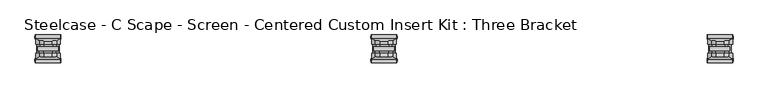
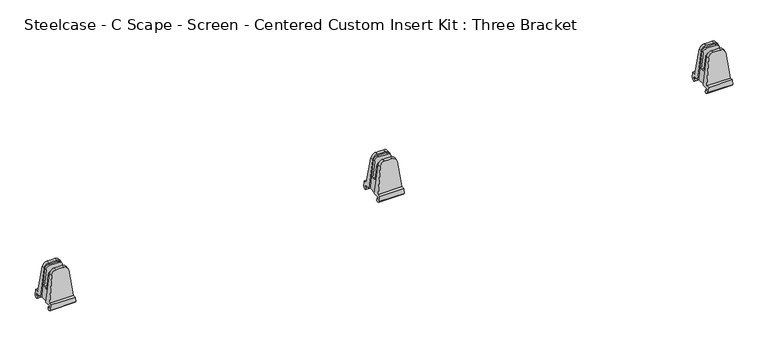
"""IFC4 building model written with IfcOpenShell, lengths in millimetres: furniture geometry, Steelcase - C Scape - Screen - Centered Custom Insert Kit : Three Bracket."""

from ifc_helpers import new_model, si_unit, frame, origin, place, context, project, spatial, circle_curve, ellipse_curve, source, transform, mapped, element, save
from ifc_brep_helpers import plane_surface, cylinder_surface, advanced_brep


def steelcase_c_scape_screen_centered_custom_insert_kit_three_330a97be(model_context):
    return source(origin(), model_context, "Body", "AdvancedBrep", [
        advanced_brep(
        [(752.7411595, -3.1752569, 793.5976353), (760.3449451, -3.1752569, 793.5976353), (767.99117, -3.1752569, 793.5976353), (767.99117, 3.17474, 793.5976353), (760.3449451, 3.17474, 793.5976353), (752.7411595, 3.17474, 793.5976353), (742.4299677, -3.1752569, 784.4759275), (734.9863978, -3.1752569, 723.9), (737.0703023, -3.1752569, 723.9), (743.3288736, -3.1752569, 783.4463283), (751.3307285, -3.1752569, 790.6512308), (770.9286053, -3.1752569, 790.6512308), (777.2441278, -3.1752569, 784.9620449), (783.6332521, -3.1752569, 723.9), (785.7459317, -3.1752569, 723.9), (778.3023617, -3.1752569, 784.4759275), (734.9863978, 10.1600734, 723.9), (785.7459317, 10.1600734, 723.9), (783.6332521, -22.2252569, 723.9), (785.7459317, -22.2250614, 723.9), (785.7459317, -35.5603917, 723.9), (734.9863978, -35.5603917, 723.9), (734.9863978, -22.2250614, 723.9), (737.0703023, -22.2250614, 723.9), (734.5177499, 10.1600734, 720.086134), (786.2145796, 10.1600734, 720.086134), (734.5177499, 6.7312129, 720.086134), (786.2145796, 6.7312129, 720.086134), (733.9871568, 6.7312129, 715.7681562), (786.7451727, 6.7312129, 715.7681562), (733.7765087, 9.1438564, 714.375), (786.9133815, 9.1438564, 714.375), (733.8159658, 11.8111354, 714.375), (786.9133815, 11.8111354, 714.375), (734.2841404, 15.6202052, 718.1850145), (786.4481891, 15.6202052, 718.1850145), (735.6324785, 15.6202052, 729.1578186), (785.099851, 15.6202052, 729.1578186), (735.6324785, 8.8135415, 729.1578186), (785.099851, 8.8135415, 729.1578186), (742.4299677, 3.9729344, 784.4759275), (778.3023617, 3.9729344, 784.4759275), (735.6324785, -34.2138598, 729.1578186), (785.099851, -34.2138598, 729.1578186), (778.3023617, -29.3732527, 784.4759275), (767.99117, -28.5750583, 793.5976353), (760.3449451, -28.5750583, 793.5976353), (752.7411595, -28.5750583, 793.5976353), (742.4299677, -29.3732527, 784.4759275), (735.6324785, -41.0205235, 729.1578186), (785.099851, -41.0205235, 729.1578186), (734.2841404, -41.0205235, 718.1850145), (786.4481891, -41.0205235, 718.1850145), (733.7765087, -37.2114537, 714.375), (786.9133815, -37.2114537, 714.375), (733.8159658, -34.5441746, 714.375), (786.9133815, -34.5441746, 714.375), (733.9871568, -32.1315312, 715.7681562), (786.7451727, -32.1315312, 715.7681562), (734.5177499, -32.1315312, 720.086134), (786.2145796, -32.1315312, 720.086134), (734.5177499, -35.5603917, 720.086134), (786.2145796, -35.5603917, 720.086134), (752.7411595, -22.2250614, 793.5976353), (760.3449451, -22.2250614, 793.5976353), (767.99117, -22.2250614, 793.5976353), (778.3023617, -22.2250614, 784.4759275), (777.7862917, -22.2250614, 779.780484), (770.0046145, -22.2250614, 786.79042), (750.4780312, -22.2250614, 786.79042), (742.9698008, -22.2250614, 780.0299789), (742.4299677, -22.2250614, 784.4759275), (750.4780312, -17.4500569, 786.79042), (770.0046145, -17.4500569, 786.79042), (777.7862917, -17.4500569, 779.780484), (781.0712458, -17.4500569, 748.3855694), (739.6438394, -17.4500569, 748.3855694), (742.9698008, -17.4500569, 780.0299789), (739.6438394, -7.9504569, 748.3855694), (743.3288736, -7.9504569, 783.4463283), (777.2441278, -7.9504569, 784.9620449), (781.0712458, -7.9504569, 748.3855694), (751.3307285, -7.9504569, 790.6512308), (770.9286053, -7.9504569, 790.6512308)],
        [
            (0, 1),
            (1, 2),
            (2, 3),
            (3, 4),
            (4, 5),
            (5, 0),
            (0, 6, circle_curve(frame((752.7411595, -3.1752569, 783.2088883), z_axis=(0.0, -1.0, 0.0), x_axis=(-1.0, 0.0, 0.0)), 10.388747)),
            (6, 7),
            (7, 8),
            (8, 9),
            (9, 10, circle_curve(frame((751.3307285, -3.1752569, 782.6052995), z_axis=(0.0, 1.0, 0.0), x_axis=(1.0, 0.0, 0.0)), 8.0459313)),
            (10, 11),
            (11, 12, circle_curve(frame((770.9286053, -3.1752569, 784.3012308), z_axis=(0.0, 1.0, 0.0), x_axis=(1.0, 0.0, 0.0)), 6.35)),
            (12, 13),
            (13, 14),
            (14, 15),
            (15, 2, circle_curve(frame((767.99117, -3.1752569, 783.2088883), z_axis=(0.0, -1.0, 0.0), x_axis=(1.0, 0.0, 0.0)), 10.388747)),
            (16, 17),
            (17, 14),
            (13, 18),
            (18, 19),
            (19, 20),
            (20, 21),
            (21, 22),
            (22, 23),
            (23, 8),
            (7, 16),
            (16, 24),
            (24, 25),
            (25, 17),
            (24, 26),
            (26, 27),
            (27, 25),
            (26, 28),
            (28, 29),
            (29, 27),
            (30, 31),
            (31, 29),
            (28, 30),
            (30, 32),
            (32, 33),
            (33, 31),
            (32, 34),
            (34, 35),
            (35, 33),
            (34, 36),
            (36, 37),
            (37, 35),
            (36, 38),
            (38, 39),
            (39, 37),
            (38, 40),
            (40, 5, ellipse_curve(frame((752.7411595, 4.0838066, 783.2088883), z_axis=(0.0, 0.9961932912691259, 0.08717182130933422), x_axis=(0.0, 0.08717182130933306, -0.9961932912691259)), 10.428445, 10.388747)),
            (3, 41, ellipse_curve(frame((767.99117, 4.0838066, 783.2088883), z_axis=(0.0, 0.9961932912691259, 0.08717182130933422), x_axis=(0.0, 0.08717182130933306, -0.9961932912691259)), 10.428445, 10.388747)),
            (41, 39),
            (42, 43),
            (43, 44),
            (44, 45, ellipse_curve(frame((767.99117, -29.4841248, 783.2088883), z_axis=(0.0, -0.9961932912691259, 0.08717182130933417), x_axis=(0.0, 0.08717182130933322, 0.996193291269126)), 10.428445, 10.388747)),
            (45, 46),
            (46, 47),
            (47, 48, ellipse_curve(frame((752.7411595, -29.4841248, 783.2088883), z_axis=(0.0, -0.9961932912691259, 0.08717182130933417), x_axis=(0.0, 0.08717182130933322, 0.996193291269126)), 10.428445, 10.388747)),
            (48, 42),
            (42, 49),
            (49, 50),
            (50, 43),
            (49, 51),
            (51, 52),
            (52, 50),
            (53, 54),
            (54, 52),
            (51, 53),
            (53, 55),
            (55, 56),
            (56, 54),
            (55, 57),
            (57, 58),
            (58, 56),
            (57, 59),
            (59, 60),
            (60, 58),
            (59, 61),
            (61, 62),
            (62, 60),
            (61, 21),
            (20, 62),
            (63, 64),
            (64, 65),
            (65, 66, circle_curve(frame((767.99117, -22.2250614, 783.2088883), z_axis=(0.0, 1.0, 0.0), x_axis=(1.0, 0.0, 0.0)), 10.388747)),
            (66, 19),
            (18, 67),
            (67, 68, circle_curve(frame((770.0046145, -22.2250614, 778.9662613), z_axis=(0.0, -1.0, 0.0), x_axis=(1.0, 0.0, 0.0)), 7.8241587)),
            (68, 69),
            (69, 70, circle_curve(frame((750.4780312, -22.2250614, 779.2408321), z_axis=(0.0, -1.0, 0.0), x_axis=(1.0, 0.0, 0.0)), 7.5495878)),
            (70, 23),
            (22, 71),
            (71, 63, circle_curve(frame((752.7411595, -22.2250614, 783.2088883), z_axis=(0.0, 1.0, 0.0), x_axis=(-1.0, 0.0, 0.0)), 10.388747)),
            (45, 65),
            (63, 47),
            (6, 40),
            (48, 71),
            (15, 41),
            (44, 66),
            (72, 73),
            (73, 74, circle_curve(frame((770.0046145, -17.4500569, 778.9662613), z_axis=(0.0, 1.0, 0.0), x_axis=(1.0, 0.0, 0.0)), 7.8241587)),
            (74, 75),
            (75, 76),
            (76, 77),
            (77, 72, circle_curve(frame((750.4780312, -17.4500569, 779.2408321), z_axis=(0.0, 1.0, 0.0), x_axis=(1.0, 0.0, 0.0)), 7.5495878)),
            (77, 70),
            (69, 72),
            (76, 78),
            (78, 79),
            (79, 9),
            (12, 80),
            (80, 81),
            (81, 75),
            (74, 67),
            (73, 68),
            (82, 79, circle_curve(frame((751.3307285, -7.9504569, 782.6052995), z_axis=(0.0, -1.0, 0.0), x_axis=(1.0, 0.0, 0.0)), 8.0459313)),
            (78, 81),
            (80, 83, circle_curve(frame((770.9286053, -7.9504569, 784.3012308), z_axis=(0.0, -1.0, 0.0), x_axis=(1.0, 0.0, 0.0)), 6.35)),
            (83, 82),
            (82, 10),
            (11, 83),
        ],
        [
            plane_surface(frame((786.9133815, 3.17474, 793.5976353), z_axis=(0.0, 0.0, 1.0), x_axis=(-1.0, 0.0, 0.0))),
            plane_surface(frame((786.9133815, -3.1752569, 793.5976353), z_axis=(0.0, -1.0, 0.0), x_axis=(-1.0, 0.0, 0.0))),
            plane_surface(frame((786.9133815, -3.1752569, 723.9), z_axis=(0.0, 0.0, -1.0), x_axis=(-1.0, 0.0, 0.0))),
            plane_surface(frame((786.9133815, 10.1600734, 723.9), z_axis=(0.0, -1.0, 0.0), x_axis=(-1.0, 0.0, 0.0))),
            plane_surface(frame((786.9133815, 10.1600734, 720.086134), z_axis=(0.0, 0.0, 1.0), x_axis=(-1.0, 0.0, 0.0))),
            plane_surface(frame((786.9133815, 6.7312129, 720.086134), z_axis=(0.0, -1.0, 0.0), x_axis=(-1.0, 0.0, 0.0))),
            plane_surface(frame((786.9133815, 6.7312129, 715.7681562), z_axis=(0.0, -0.5000581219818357, -0.8659918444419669), x_axis=(-1.0, 0.0, 0.0))),
            plane_surface(frame((786.9133815, 9.1438564, 714.375), z_axis=(0.0, 0.0, -1.0), x_axis=(-1.0, 0.0, 0.0))),
            plane_surface(frame((786.9133815, 11.8111354, 714.375), z_axis=(0.0, 0.7071944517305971, -0.7070190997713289), x_axis=(-1.0, 0.0, 0.0))),
            plane_surface(frame((786.9133815, 15.6202052, 718.1850145), z_axis=(0.0, 1.0, 0.0), x_axis=(-1.0, 0.0, 0.0))),
            plane_surface(frame((786.9133815, 15.6202052, 729.1578186), z_axis=(0.0, 0.0, 1.0), x_axis=(-1.0, 0.0, 0.0))),
            plane_surface(frame((786.9133815, 8.8135415, 729.1578186), z_axis=(0.0, 0.9961932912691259, 0.08717182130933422), x_axis=(-1.0, 0.0, 0.0))),
            plane_surface(frame((786.9133815, -28.5750583, 793.5976353), z_axis=(0.0, -0.9961932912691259, 0.08717182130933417), x_axis=(-1.0, 0.0, 0.0))),
            plane_surface(frame((786.9133815, -34.2138598, 729.1578186), z_axis=(0.0, 0.0, 1.0), x_axis=(-1.0, 0.0, 0.0))),
            plane_surface(frame((786.9133815, -41.0205235, 729.1578186), z_axis=(0.0, -1.0, 0.0), x_axis=(-1.0, 0.0, 0.0))),
            plane_surface(frame((786.9133815, -41.0205235, 718.1850145), z_axis=(0.0, -0.7071944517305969, -0.707019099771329), x_axis=(-1.0, 0.0, 0.0))),
            plane_surface(frame((786.9133815, -37.2114537, 714.375), z_axis=(0.0, 0.0, -1.0), x_axis=(-1.0, 0.0, 0.0))),
            plane_surface(frame((786.9133815, -34.5441746, 714.375), z_axis=(0.0, 0.5000581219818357, -0.8659918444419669), x_axis=(-1.0, 0.0, 0.0))),
            plane_surface(frame((786.9133815, -32.1315312, 715.7681562), z_axis=(0.0, 1.0, 0.0), x_axis=(-1.0, 0.0, 0.0))),
            plane_surface(frame((786.9133815, -32.1315312, 720.086134), z_axis=(0.0, 0.0, 1.0), x_axis=(-1.0, 0.0, 0.0))),
            plane_surface(frame((786.9133815, -35.5603917, 720.086134), z_axis=(0.0, 1.0, 0.0), x_axis=(-1.0, 0.0, 0.0))),
            plane_surface(frame((786.9133815, -22.2250614, 723.9), z_axis=(0.0, 1.0, 0.0), x_axis=(-1.0, 0.0, 0.0))),
            plane_surface(frame((786.9133815, -22.2250614, 793.5976353), z_axis=(0.0, 0.0, 1.0), x_axis=(-1.0, 0.0, 0.0))),
            plane_surface(frame((733.8159658, -43.2064559, 714.375), z_axis=(-0.9925346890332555, 0.0, 0.12196266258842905), x_axis=(0.0, 1.0, 0.0))),
            cylinder_surface(frame((752.7411595, 17.5208706, 783.2088883), z_axis=(0.0, 1.0, 0.0), x_axis=(-1.0, 0.0, 0.0)), 10.388747),
            cylinder_surface(frame((767.99117, 17.5208706, 783.2088883), z_axis=(0.0, 1.0, 0.0), x_axis=(1.0, 0.0, 0.0)), 10.388747),
            plane_surface(frame((778.3023617, -43.2064559, 784.4759275), z_axis=(0.9925346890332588, 0.0, 0.12196266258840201), x_axis=(0.0, 1.0, 0.0))),
            plane_surface(frame((758.0276191, -17.4500569, 779.2408321), z_axis=(0.0, 1.0, 0.0), x_axis=(0.0, 0.0, -1.0))),
            cylinder_surface(frame((750.4780312, -17.4500569, 779.2408321), z_axis=(0.0, -1.0, 0.0), x_axis=(1.0, 0.0, 0.0)), 7.5495878),
            plane_surface(frame((742.9698008, -22.2252569, 780.0299789), z_axis=(-0.9945218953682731, 0.0, 0.10452846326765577), x_axis=(0.0, 1.0, 0.0))),
            plane_surface(frame((783.6332521, -22.2252569, 723.9), z_axis=(0.9945704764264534, 0.0, 0.10406520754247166), x_axis=(0.0, 1.0, 0.0))),
            cylinder_surface(frame((770.0046145, -17.4500569, 778.9662613), z_axis=(0.0, -1.0, 0.0), x_axis=(1.0, 0.0, 0.0)), 7.8241587),
            plane_surface(frame((770.0046145, -22.2252569, 786.79042), z_axis=(0.0, 0.0, 1.0), x_axis=(0.0, 1.0, 0.0))),
            plane_surface(frame((759.3766598, -7.9504569, 782.6052995), z_axis=(0.0, -1.0, 0.0), x_axis=(0.0, 0.0, 1.0))),
            cylinder_surface(frame((751.3307285, -3.1752569, 782.6052995), z_axis=(0.0, -1.0, 0.0), x_axis=(1.0, 0.0, 0.0)), 8.0459313),
            cylinder_surface(frame((770.9286053, -3.1752569, 784.3012308), z_axis=(0.0, -1.0, 0.0), x_axis=(1.0, 0.0, 0.0)), 6.35),
            plane_surface(frame((770.9286053, -7.9504569, 790.6512308), z_axis=(0.0, 0.0, 1.0), x_axis=(0.0, 1.0, 0.0))),
            plane_surface(frame((781.0712458, -17.4500569, 748.3855694), z_axis=(0.0, 0.0, 1.0), x_axis=(0.0, 1.0, 0.0))),
        ],
        [
            (0, [[1, 2, 3, 4, 5, 6]]),
            (1, [[-1, 7, 8, 9, 10, 11, 12, 13, 14, 15, 16, 17, -2]]),
            (2, [[18, 19, -15, 20, 21, 22, 23, 24, 25, 26, -9, 27]]),
            (3, [[-18, 28, 29, 30]]),
            (4, [[-29, 31, 32, 33]]),
            (5, [[-32, 34, 35, 36]]),
            (6, [[37, 38, -35, 39]]),
            (7, [[-37, 40, 41, 42]]),
            (8, [[-41, 43, 44, 45]]),
            (9, [[-44, 46, 47, 48]]),
            (10, [[-47, 49, 50, 51]]),
            (11, [[-50, 52, 53, -5, -4, 54, 55]]),
            (12, [[56, 57, 58, 59, 60, 61, 62]]),
            (13, [[-56, 63, 64, 65]]),
            (14, [[-64, 66, 67, 68]]),
            (15, [[69, 70, -67, 71]]),
            (16, [[-69, 72, 73, 74]]),
            (17, [[-73, 75, 76, 77]]),
            (18, [[-76, 78, 79, 80]]),
            (19, [[-79, 81, 82, 83]]),
            (20, [[-82, 84, -23, 85]]),
            (21, [[86, 87, 88, 89, -21, 90, 91, 92, 93, 94, -25, 95, 96]]),
            (22, [[-59, 97, -87, -86, 98, -60]]),
            (23, [[99, -52, -49, -46, -43, -40, -39, -34, -31, -28, -27, -8]]),
            (23, [[100, -95, -24, -84, -81, -78, -75, -72, -71, -66, -63, -62]]),
            (24, [[-99, -7, -6, -53]]),
            (24, [[-100, -61, -98, -96]]),
            (25, [[101, -54, -3, -17]]),
            (25, [[102, -88, -97, -58]]),
            (26, [[-101, -16, -19, -30, -33, -36, -38, -42, -45, -48, -51, -55]]),
            (26, [[-102, -57, -65, -68, -70, -74, -77, -80, -83, -85, -22, -89]]),
            (27, [[103, 104, 105, 106, 107, 108]]),
            (28, [[-108, 109, -93, 110]]),
            (29, [[-109, -107, 111, 112, 113, -10, -26, -94]]),
            (30, [[-20, -14, 114, 115, 116, -105, 117, -90]]),
            (31, [[-104, 118, -91, -117]]),
            (32, [[-103, -110, -92, -118]]),
            (33, [[119, -112, 120, -115, 121, 122]]),
            (34, [[-119, 123, -11, -113]]),
            (35, [[-121, -114, -13, 124]]),
            (36, [[-122, -124, -12, -123]]),
            (37, [[-111, -106, -116, -120]]),
        ],
    ),
        advanced_brep(
        [(1438.4649563, -3.1752569, 793.5976353), (1446.0687419, -3.1752569, 793.5976353), (1453.7149668, -3.1752569, 793.5976353), (1453.7149668, 3.17474, 793.5976353), (1446.0687419, 3.17474, 793.5976353), (1438.4649563, 3.17474, 793.5976353), (1428.1537645, -3.1752569, 784.4759275), (1420.7101946, -3.1752569, 723.9), (1422.7940991, -3.1752569, 723.9), (1429.0526704, -3.1752569, 783.4463283), (1437.0545253, -3.1752569, 790.6512308), (1456.6524021, -3.1752569, 790.6512308), (1462.9679246, -3.1752569, 784.9620449), (1469.3570489, -3.1752569, 723.9), (1471.4697285, -3.1752569, 723.9), (1464.0261585, -3.1752569, 784.4759275), (1420.7101946, 10.1600734, 723.9), (1471.4697285, 10.1600734, 723.9), (1469.3570489, -22.2252569, 723.9), (1471.4697285, -22.2250614, 723.9), (1471.4697285, -35.5603917, 723.9), (1420.7101946, -35.5603917, 723.9), (1420.7101946, -22.2250614, 723.9), (1422.7940991, -22.2250614, 723.9), (1420.2415467, 10.1600734, 720.086134), (1471.9383764, 10.1600734, 720.086134), (1420.2415467, 6.7312129, 720.086134), (1471.9383764, 6.7312129, 720.086134), (1419.7109536, 6.7312129, 715.7681562), (1472.4689695, 6.7312129, 715.7681562), (1419.5003055, 9.1438564, 714.375), (1472.6371783, 9.1438564, 714.375), (1419.5397626, 11.8111354, 714.375), (1472.6371783, 11.8111354, 714.375), (1420.0079371, 15.6202052, 718.1850145), (1472.1719859, 15.6202052, 718.1850145), (1421.3562753, 15.6202052, 729.1578186), (1470.8236478, 15.6202052, 729.1578186), (1421.3562753, 8.8135415, 729.1578186), (1470.8236478, 8.8135415, 729.1578186), (1428.1537645, 3.9729344, 784.4759275), (1464.0261585, 3.9729344, 784.4759275), (1421.3562753, -34.2138598, 729.1578186), (1470.8236478, -34.2138598, 729.1578186), (1464.0261585, -29.3732527, 784.4759275), (1453.7149668, -28.5750583, 793.5976353), (1446.0687419, -28.5750583, 793.5976353), (1438.4649563, -28.5750583, 793.5976353), (1428.1537645, -29.3732527, 784.4759275), (1421.3562753, -41.0205235, 729.1578186), (1470.8236478, -41.0205235, 729.1578186), (1420.0079371, -41.0205235, 718.1850145), (1472.1719859, -41.0205235, 718.1850145), (1419.5003055, -37.2114537, 714.375), (1472.6371783, -37.2114537, 714.375), (1419.5397626, -34.5441746, 714.375), (1472.6371783, -34.5441746, 714.375), (1419.7109536, -32.1315312, 715.7681562), (1472.4689695, -32.1315312, 715.7681562), (1420.2415467, -32.1315312, 720.086134), (1471.9383764, -32.1315312, 720.086134), (1420.2415467, -35.5603917, 720.086134), (1471.9383764, -35.5603917, 720.086134), (1438.4649563, -22.2250614, 793.5976353), (1446.0687419, -22.2250614, 793.5976353), (1453.7149668, -22.2250614, 793.5976353), (1464.0261585, -22.2250614, 784.4759275), (1463.5100885, -22.2250614, 779.780484), (1455.7284113, -22.2250614, 786.79042), (1436.201828, -22.2250614, 786.79042), (1428.6935976, -22.2250614, 780.0299789), (1428.1537645, -22.2250614, 784.4759275), (1436.201828, -17.4500569, 786.79042), (1455.7284113, -17.4500569, 786.79042), (1463.5100885, -17.4500569, 779.780484), (1466.7950426, -17.4500569, 748.3855694), (1425.3676361, -17.4500569, 748.3855694), (1428.6935976, -17.4500569, 780.0299789), (1425.3676361, -7.9504569, 748.3855694), (1429.0526704, -7.9504569, 783.4463283), (1462.9679246, -7.9504569, 784.9620449), (1466.7950426, -7.9504569, 748.3855694), (1437.0545253, -7.9504569, 790.6512308), (1456.6524021, -7.9504569, 790.6512308)],
        [
            (0, 1),
            (1, 2),
            (2, 3),
            (3, 4),
            (4, 5),
            (5, 0),
            (0, 6, circle_curve(frame((1438.4649563, -3.1752569, 783.2088883), z_axis=(0.0, -1.0, 0.0), x_axis=(-1.0, 0.0, 0.0)), 10.388747)),
            (6, 7),
            (7, 8),
            (8, 9),
            (9, 10, circle_curve(frame((1437.0545253, -3.1752569, 782.6052995), z_axis=(0.0, 1.0, 0.0), x_axis=(1.0, 0.0, 0.0)), 8.0459313)),
            (10, 11),
            (11, 12, circle_curve(frame((1456.6524021, -3.1752569, 784.3012308), z_axis=(0.0, 1.0, 0.0), x_axis=(1.0, 0.0, 0.0)), 6.35)),
            (12, 13),
            (13, 14),
            (14, 15),
            (15, 2, circle_curve(frame((1453.7149668, -3.1752569, 783.2088883), z_axis=(0.0, -1.0, 0.0), x_axis=(1.0, 0.0, 0.0)), 10.388747)),
            (16, 17),
            (17, 14),
            (13, 18),
            (18, 19),
            (19, 20),
            (20, 21),
            (21, 22),
            (22, 23),
            (23, 8),
            (7, 16),
            (16, 24),
            (24, 25),
            (25, 17),
            (24, 26),
            (26, 27),
            (27, 25),
            (26, 28),
            (28, 29),
            (29, 27),
            (30, 31),
            (31, 29),
            (28, 30),
            (30, 32),
            (32, 33),
            (33, 31),
            (32, 34),
            (34, 35),
            (35, 33),
            (34, 36),
            (36, 37),
            (37, 35),
            (36, 38),
            (38, 39),
            (39, 37),
            (38, 40),
            (40, 5, ellipse_curve(frame((1438.4649563, 4.0838066, 783.2088883), z_axis=(0.0, 0.9961932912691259, 0.08717182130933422), x_axis=(0.0, 0.08717182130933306, -0.9961932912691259)), 10.428445, 10.388747)),
            (3, 41, ellipse_curve(frame((1453.7149668, 4.0838066, 783.2088883), z_axis=(0.0, 0.9961932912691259, 0.08717182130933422), x_axis=(0.0, 0.08717182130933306, -0.9961932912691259)), 10.428445, 10.388747)),
            (41, 39),
            (42, 43),
            (43, 44),
            (44, 45, ellipse_curve(frame((1453.7149668, -29.4841248, 783.2088883), z_axis=(0.0, -0.9961932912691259, 0.08717182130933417), x_axis=(0.0, 0.08717182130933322, 0.996193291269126)), 10.428445, 10.388747)),
            (45, 46),
            (46, 47),
            (47, 48, ellipse_curve(frame((1438.4649563, -29.4841248, 783.2088883), z_axis=(0.0, -0.9961932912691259, 0.08717182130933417), x_axis=(0.0, 0.08717182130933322, 0.996193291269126)), 10.428445, 10.388747)),
            (48, 42),
            (42, 49),
            (49, 50),
            (50, 43),
            (49, 51),
            (51, 52),
            (52, 50),
            (53, 54),
            (54, 52),
            (51, 53),
            (53, 55),
            (55, 56),
            (56, 54),
            (55, 57),
            (57, 58),
            (58, 56),
            (57, 59),
            (59, 60),
            (60, 58),
            (59, 61),
            (61, 62),
            (62, 60),
            (61, 21),
            (20, 62),
            (63, 64),
            (64, 65),
            (65, 66, circle_curve(frame((1453.7149668, -22.2250614, 783.2088883), z_axis=(0.0, 1.0, 0.0), x_axis=(1.0, 0.0, 0.0)), 10.388747)),
            (66, 19),
            (18, 67),
            (67, 68, circle_curve(frame((1455.7284113, -22.2250614, 778.9662613), z_axis=(0.0, -1.0, 0.0), x_axis=(1.0, 0.0, 0.0)), 7.8241587)),
            (68, 69),
            (69, 70, circle_curve(frame((1436.201828, -22.2250614, 779.2408321), z_axis=(0.0, -1.0, 0.0), x_axis=(1.0, 0.0, 0.0)), 7.5495878)),
            (70, 23),
            (22, 71),
            (71, 63, circle_curve(frame((1438.4649563, -22.2250614, 783.2088883), z_axis=(0.0, 1.0, 0.0), x_axis=(-1.0, 0.0, 0.0)), 10.388747)),
            (45, 65),
            (63, 47),
            (6, 40),
            (48, 71),
            (15, 41),
            (44, 66),
            (72, 73),
            (73, 74, circle_curve(frame((1455.7284113, -17.4500569, 778.9662613), z_axis=(0.0, 1.0, 0.0), x_axis=(1.0, 0.0, 0.0)), 7.8241587)),
            (74, 75),
            (75, 76),
            (76, 77),
            (77, 72, circle_curve(frame((1436.201828, -17.4500569, 779.2408321), z_axis=(0.0, 1.0, 0.0), x_axis=(1.0, 0.0, 0.0)), 7.5495878)),
            (77, 70),
            (69, 72),
            (76, 78),
            (78, 79),
            (79, 9),
            (12, 80),
            (80, 81),
            (81, 75),
            (74, 67),
            (73, 68),
            (82, 79, circle_curve(frame((1437.0545253, -7.9504569, 782.6052995), z_axis=(0.0, -1.0, 0.0), x_axis=(1.0, 0.0, 0.0)), 8.0459313)),
            (78, 81),
            (80, 83, circle_curve(frame((1456.6524021, -7.9504569, 784.3012308), z_axis=(0.0, -1.0, 0.0), x_axis=(1.0, 0.0, 0.0)), 6.35)),
            (83, 82),
            (82, 10),
            (11, 83),
        ],
        [
            plane_surface(frame((1472.6371783, 3.17474, 793.5976353), z_axis=(0.0, 0.0, 1.0), x_axis=(-1.0, 0.0, 0.0))),
            plane_surface(frame((1472.6371783, -3.1752569, 793.5976353), z_axis=(0.0, -1.0, 0.0), x_axis=(-1.0, 0.0, 0.0))),
            plane_surface(frame((1472.6371783, -3.1752569, 723.9), z_axis=(0.0, 0.0, -1.0), x_axis=(-1.0, 0.0, 0.0))),
            plane_surface(frame((1472.6371783, 10.1600734, 723.9), z_axis=(0.0, -1.0, 0.0), x_axis=(-1.0, 0.0, 0.0))),
            plane_surface(frame((1472.6371783, 10.1600734, 720.086134), z_axis=(0.0, 0.0, 1.0), x_axis=(-1.0, 0.0, 0.0))),
            plane_surface(frame((1472.6371783, 6.7312129, 720.086134), z_axis=(0.0, -1.0, 0.0), x_axis=(-1.0, 0.0, 0.0))),
            plane_surface(frame((1472.6371783, 6.7312129, 715.7681562), z_axis=(0.0, -0.5000581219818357, -0.8659918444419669), x_axis=(-1.0, 0.0, 0.0))),
            plane_surface(frame((1472.6371783, 9.1438564, 714.375), z_axis=(0.0, 0.0, -1.0), x_axis=(-1.0, 0.0, 0.0))),
            plane_surface(frame((1472.6371783, 11.8111354, 714.375), z_axis=(0.0, 0.7071944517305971, -0.7070190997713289), x_axis=(-1.0, 0.0, 0.0))),
            plane_surface(frame((1472.6371783, 15.6202052, 718.1850145), z_axis=(0.0, 1.0, 0.0), x_axis=(-1.0, 0.0, 0.0))),
            plane_surface(frame((1472.6371783, 15.6202052, 729.1578186), z_axis=(0.0, 0.0, 1.0), x_axis=(-1.0, 0.0, 0.0))),
            plane_surface(frame((1472.6371783, 8.8135415, 729.1578186), z_axis=(0.0, 0.9961932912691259, 0.08717182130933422), x_axis=(-1.0, 0.0, 0.0))),
            plane_surface(frame((1472.6371783, -28.5750583, 793.5976353), z_axis=(0.0, -0.9961932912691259, 0.08717182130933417), x_axis=(-1.0, 0.0, 0.0))),
            plane_surface(frame((1472.6371783, -34.2138598, 729.1578186), z_axis=(0.0, 0.0, 1.0), x_axis=(-1.0, 0.0, 0.0))),
            plane_surface(frame((1472.6371783, -41.0205235, 729.1578186), z_axis=(0.0, -1.0, 0.0), x_axis=(-1.0, 0.0, 0.0))),
            plane_surface(frame((1472.6371783, -41.0205235, 718.1850145), z_axis=(0.0, -0.7071944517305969, -0.707019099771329), x_axis=(-1.0, 0.0, 0.0))),
            plane_surface(frame((1472.6371783, -37.2114537, 714.375), z_axis=(0.0, 0.0, -1.0), x_axis=(-1.0, 0.0, 0.0))),
            plane_surface(frame((1472.6371783, -34.5441746, 714.375), z_axis=(0.0, 0.5000581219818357, -0.8659918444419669), x_axis=(-1.0, 0.0, 0.0))),
            plane_surface(frame((1472.6371783, -32.1315312, 715.7681562), z_axis=(0.0, 1.0, 0.0), x_axis=(-1.0, 0.0, 0.0))),
            plane_surface(frame((1472.6371783, -32.1315312, 720.086134), z_axis=(0.0, 0.0, 1.0), x_axis=(-1.0, 0.0, 0.0))),
            plane_surface(frame((1472.6371783, -35.5603917, 720.086134), z_axis=(0.0, 1.0, 0.0), x_axis=(-1.0, 0.0, 0.0))),
            plane_surface(frame((1472.6371783, -22.2250614, 723.9), z_axis=(0.0, 1.0, 0.0), x_axis=(-1.0, 0.0, 0.0))),
            plane_surface(frame((1472.6371783, -22.2250614, 793.5976353), z_axis=(0.0, 0.0, 1.0), x_axis=(-1.0, 0.0, 0.0))),
            plane_surface(frame((1419.5397626, -43.2064559, 714.375), z_axis=(-0.9925346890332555, 0.0, 0.12196266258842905), x_axis=(0.0, 1.0, 0.0))),
            cylinder_surface(frame((1438.4649563, 17.5208706, 783.2088883), z_axis=(0.0, 1.0, 0.0), x_axis=(-1.0, 0.0, 0.0)), 10.388747),
            cylinder_surface(frame((1453.7149668, 17.5208706, 783.2088883), z_axis=(0.0, 1.0, 0.0), x_axis=(1.0, 0.0, 0.0)), 10.388747),
            plane_surface(frame((1464.0261585, -43.2064559, 784.4759275), z_axis=(0.9925346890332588, 0.0, 0.12196266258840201), x_axis=(0.0, 1.0, 0.0))),
            plane_surface(frame((1443.7514158, -17.4500569, 779.2408321), z_axis=(0.0, 1.0, 0.0), x_axis=(0.0, 0.0, -1.0))),
            cylinder_surface(frame((1436.201828, -17.4500569, 779.2408321), z_axis=(0.0, -1.0, 0.0), x_axis=(1.0, 0.0, 0.0)), 7.5495878),
            plane_surface(frame((1428.6935976, -22.2252569, 780.0299789), z_axis=(-0.9945218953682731, 0.0, 0.10452846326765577), x_axis=(0.0, 1.0, 0.0))),
            plane_surface(frame((1469.3570489, -22.2252569, 723.9), z_axis=(0.9945704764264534, 0.0, 0.10406520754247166), x_axis=(0.0, 1.0, 0.0))),
            cylinder_surface(frame((1455.7284113, -17.4500569, 778.9662613), z_axis=(0.0, -1.0, 0.0), x_axis=(1.0, 0.0, 0.0)), 7.8241587),
            plane_surface(frame((1455.7284113, -22.2252569, 786.79042), z_axis=(0.0, 0.0, 1.0), x_axis=(0.0, 1.0, 0.0))),
            plane_surface(frame((1445.1004566, -7.9504569, 782.6052995), z_axis=(0.0, -1.0, 0.0), x_axis=(0.0, 0.0, 1.0))),
            cylinder_surface(frame((1437.0545253, -3.1752569, 782.6052995), z_axis=(0.0, -1.0, 0.0), x_axis=(1.0, 0.0, 0.0)), 8.0459313),
            cylinder_surface(frame((1456.6524021, -3.1752569, 784.3012308), z_axis=(0.0, -1.0, 0.0), x_axis=(1.0, 0.0, 0.0)), 6.35),
            plane_surface(frame((1456.6524021, -7.9504569, 790.6512308), z_axis=(0.0, 0.0, 1.0), x_axis=(0.0, 1.0, 0.0))),
            plane_surface(frame((1466.7950426, -17.4500569, 748.3855694), z_axis=(0.0, 0.0, 1.0), x_axis=(0.0, 1.0, 0.0))),
        ],
        [
            (0, [[1, 2, 3, 4, 5, 6]]),
            (1, [[-1, 7, 8, 9, 10, 11, 12, 13, 14, 15, 16, 17, -2]]),
            (2, [[18, 19, -15, 20, 21, 22, 23, 24, 25, 26, -9, 27]]),
            (3, [[-18, 28, 29, 30]]),
            (4, [[-29, 31, 32, 33]]),
            (5, [[-32, 34, 35, 36]]),
            (6, [[37, 38, -35, 39]]),
            (7, [[-37, 40, 41, 42]]),
            (8, [[-41, 43, 44, 45]]),
            (9, [[-44, 46, 47, 48]]),
            (10, [[-47, 49, 50, 51]]),
            (11, [[-50, 52, 53, -5, -4, 54, 55]]),
            (12, [[56, 57, 58, 59, 60, 61, 62]]),
            (13, [[-56, 63, 64, 65]]),
            (14, [[-64, 66, 67, 68]]),
            (15, [[69, 70, -67, 71]]),
            (16, [[-69, 72, 73, 74]]),
            (17, [[-73, 75, 76, 77]]),
            (18, [[-76, 78, 79, 80]]),
            (19, [[-79, 81, 82, 83]]),
            (20, [[-82, 84, -23, 85]]),
            (21, [[86, 87, 88, 89, -21, 90, 91, 92, 93, 94, -25, 95, 96]]),
            (22, [[-59, 97, -87, -86, 98, -60]]),
            (23, [[99, -52, -49, -46, -43, -40, -39, -34, -31, -28, -27, -8]]),
            (23, [[100, -95, -24, -84, -81, -78, -75, -72, -71, -66, -63, -62]]),
            (24, [[-99, -7, -6, -53]]),
            (24, [[-100, -61, -98, -96]]),
            (25, [[101, -54, -3, -17]]),
            (25, [[102, -88, -97, -58]]),
            (26, [[-101, -16, -19, -30, -33, -36, -38, -42, -45, -48, -51, -55]]),
            (26, [[-102, -57, -65, -68, -70, -74, -77, -80, -83, -85, -22, -89]]),
            (27, [[103, 104, 105, 106, 107, 108]]),
            (28, [[-108, 109, -93, 110]]),
            (29, [[-109, -107, 111, 112, 113, -10, -26, -94]]),
            (30, [[-20, -14, 114, 115, 116, -105, 117, -90]]),
            (31, [[-104, 118, -91, -117]]),
            (32, [[-103, -110, -92, -118]]),
            (33, [[119, -112, 120, -115, 121, 122]]),
            (34, [[-119, 123, -11, -113]]),
            (35, [[-121, -114, -13, 124]]),
            (36, [[-122, -124, -12, -123]]),
            (37, [[-111, -106, -116, -120]]),
        ],
    ),
        advanced_brep(
        [(67.0173627, -3.1752569, 793.5976353), (74.6211483, -3.1752569, 793.5976353), (82.2673732, -3.1752569, 793.5976353), (82.2673732, 3.17474, 793.5976353), (74.6211483, 3.17474, 793.5976353), (67.0173627, 3.17474, 793.5976353), (56.706171, -3.1752569, 784.4759275), (49.262601, -3.1752569, 723.9), (51.3465055, -3.1752569, 723.9), (57.6050768, -3.1752569, 783.4463283), (65.6069317, -3.1752569, 790.6512308), (85.2048085, -3.1752569, 790.6512308), (91.520331, -3.1752569, 784.9620449), (97.9094553, -3.1752569, 723.9), (100.0221349, -3.1752569, 723.9), (92.578565, -3.1752569, 784.4759275), (49.262601, 10.1600734, 723.9), (100.0221349, 10.1600734, 723.9), (97.9094553, -22.2252569, 723.9), (100.0221349, -22.2250614, 723.9), (100.0221349, -35.5603917, 723.9), (49.262601, -35.5603917, 723.9), (49.262601, -22.2250614, 723.9), (51.3465055, -22.2250614, 723.9), (48.7939531, 10.1600734, 720.086134), (100.4907828, 10.1600734, 720.086134), (48.7939531, 6.7312129, 720.086134), (100.4907828, 6.7312129, 720.086134), (48.26336, 6.7312129, 715.7681562), (101.0213759, 6.7312129, 715.7681562), (48.0527119, 9.1438564, 714.375), (101.1895848, 9.1438564, 714.375), (48.092169, 11.8111354, 714.375), (101.1895848, 11.8111354, 714.375), (48.5603436, 15.6202052, 718.1850145), (100.7243923, 15.6202052, 718.1850145), (49.9086817, 15.6202052, 729.1578186), (99.3760542, 15.6202052, 729.1578186), (49.9086817, 8.8135415, 729.1578186), (99.3760542, 8.8135415, 729.1578186), (56.706171, 3.9729344, 784.4759275), (92.578565, 3.9729344, 784.4759275), (49.9086817, -34.2138598, 729.1578186), (99.3760542, -34.2138598, 729.1578186), (92.578565, -29.3732527, 784.4759275), (82.2673732, -28.5750583, 793.5976353), (74.6211483, -28.5750583, 793.5976353), (67.0173627, -28.5750583, 793.5976353), (56.706171, -29.3732527, 784.4759275), (49.9086817, -41.0205235, 729.1578186), (99.3760542, -41.0205235, 729.1578186), (48.5603436, -41.0205235, 718.1850145), (100.7243923, -41.0205235, 718.1850145), (48.0527119, -37.2114537, 714.375), (101.1895848, -37.2114537, 714.375), (48.092169, -34.5441746, 714.375), (101.1895848, -34.5441746, 714.375), (48.26336, -32.1315312, 715.7681562), (101.0213759, -32.1315312, 715.7681562), (48.7939531, -32.1315312, 720.086134), (100.4907828, -32.1315312, 720.086134), (48.7939531, -35.5603917, 720.086134), (100.4907828, -35.5603917, 720.086134), (67.0173627, -22.2250614, 793.5976353), (74.6211483, -22.2250614, 793.5976353), (82.2673732, -22.2250614, 793.5976353), (92.578565, -22.2250614, 784.4759275), (92.0624949, -22.2250614, 779.780484), (84.2808177, -22.2250614, 786.79042), (64.7542344, -22.2250614, 786.79042), (57.246004, -22.2250614, 780.0299789), (56.706171, -22.2250614, 784.4759275), (64.7542344, -17.4500569, 786.79042), (84.2808177, -17.4500569, 786.79042), (92.0624949, -17.4500569, 779.780484), (95.347449, -17.4500569, 748.3855694), (53.9200426, -17.4500569, 748.3855694), (57.246004, -17.4500569, 780.0299789), (53.9200426, -7.9504569, 748.3855694), (57.6050768, -7.9504569, 783.4463283), (91.520331, -7.9504569, 784.9620449), (95.347449, -7.9504569, 748.3855694), (65.6069317, -7.9504569, 790.6512308), (85.2048085, -7.9504569, 790.6512308)],
        [
            (0, 1),
            (1, 2),
            (2, 3),
            (3, 4),
            (4, 5),
            (5, 0),
            (0, 6, circle_curve(frame((67.0173627, -3.1752569, 783.2088883), z_axis=(0.0, -1.0, 0.0), x_axis=(-1.0, 0.0, 0.0)), 10.388747)),
            (6, 7),
            (7, 8),
            (8, 9),
            (9, 10, circle_curve(frame((65.6069317, -3.1752569, 782.6052995), z_axis=(0.0, 1.0, 0.0), x_axis=(1.0, 0.0, 0.0)), 8.0459313)),
            (10, 11),
            (11, 12, circle_curve(frame((85.2048085, -3.1752569, 784.3012308), z_axis=(0.0, 1.0, 0.0), x_axis=(1.0, 0.0, 0.0)), 6.35)),
            (12, 13),
            (13, 14),
            (14, 15),
            (15, 2, circle_curve(frame((82.2673732, -3.1752569, 783.2088883), z_axis=(0.0, -1.0, 0.0), x_axis=(1.0, 0.0, 0.0)), 10.388747)),
            (16, 17),
            (17, 14),
            (13, 18),
            (18, 19),
            (19, 20),
            (20, 21),
            (21, 22),
            (22, 23),
            (23, 8),
            (7, 16),
            (16, 24),
            (24, 25),
            (25, 17),
            (24, 26),
            (26, 27),
            (27, 25),
            (26, 28),
            (28, 29),
            (29, 27),
            (30, 31),
            (31, 29),
            (28, 30),
            (30, 32),
            (32, 33),
            (33, 31),
            (32, 34),
            (34, 35),
            (35, 33),
            (34, 36),
            (36, 37),
            (37, 35),
            (36, 38),
            (38, 39),
            (39, 37),
            (38, 40),
            (40, 5, ellipse_curve(frame((67.0173627, 4.0838066, 783.2088883), z_axis=(0.0, 0.9961932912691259, 0.08717182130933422), x_axis=(0.0, 0.08717182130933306, -0.9961932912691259)), 10.428445, 10.388747)),
            (3, 41, ellipse_curve(frame((82.2673732, 4.0838066, 783.2088883), z_axis=(0.0, 0.9961932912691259, 0.08717182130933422), x_axis=(0.0, 0.08717182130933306, -0.9961932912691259)), 10.428445, 10.388747)),
            (41, 39),
            (42, 43),
            (43, 44),
            (44, 45, ellipse_curve(frame((82.2673732, -29.4841248, 783.2088883), z_axis=(0.0, -0.9961932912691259, 0.08717182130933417), x_axis=(0.0, 0.08717182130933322, 0.996193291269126)), 10.428445, 10.388747)),
            (45, 46),
            (46, 47),
            (47, 48, ellipse_curve(frame((67.0173627, -29.4841248, 783.2088883), z_axis=(0.0, -0.9961932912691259, 0.08717182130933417), x_axis=(0.0, 0.08717182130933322, 0.996193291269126)), 10.428445, 10.388747)),
            (48, 42),
            (42, 49),
            (49, 50),
            (50, 43),
            (49, 51),
            (51, 52),
            (52, 50),
            (53, 54),
            (54, 52),
            (51, 53),
            (53, 55),
            (55, 56),
            (56, 54),
            (55, 57),
            (57, 58),
            (58, 56),
            (57, 59),
            (59, 60),
            (60, 58),
            (59, 61),
            (61, 62),
            (62, 60),
            (61, 21),
            (20, 62),
            (63, 64),
            (64, 65),
            (65, 66, circle_curve(frame((82.2673732, -22.2250614, 783.2088883), z_axis=(0.0, 1.0, 0.0), x_axis=(1.0, 0.0, 0.0)), 10.388747)),
            (66, 19),
            (18, 67),
            (67, 68, circle_curve(frame((84.2808177, -22.2250614, 778.9662613), z_axis=(0.0, -1.0, 0.0), x_axis=(1.0, 0.0, 0.0)), 7.8241587)),
            (68, 69),
            (69, 70, circle_curve(frame((64.7542344, -22.2250614, 779.2408321), z_axis=(0.0, -1.0, 0.0), x_axis=(1.0, 0.0, 0.0)), 7.5495878)),
            (70, 23),
            (22, 71),
            (71, 63, circle_curve(frame((67.0173627, -22.2250614, 783.2088883), z_axis=(0.0, 1.0, 0.0), x_axis=(-1.0, 0.0, 0.0)), 10.388747)),
            (45, 65),
            (63, 47),
            (6, 40),
            (48, 71),
            (15, 41),
            (44, 66),
            (72, 73),
            (73, 74, circle_curve(frame((84.2808177, -17.4500569, 778.9662613), z_axis=(0.0, 1.0, 0.0), x_axis=(1.0, 0.0, 0.0)), 7.8241587)),
            (74, 75),
            (75, 76),
            (76, 77),
            (77, 72, circle_curve(frame((64.7542344, -17.4500569, 779.2408321), z_axis=(0.0, 1.0, 0.0), x_axis=(1.0, 0.0, 0.0)), 7.5495878)),
            (77, 70),
            (69, 72),
            (76, 78),
            (78, 79),
            (79, 9),
            (12, 80),
            (80, 81),
            (81, 75),
            (74, 67),
            (73, 68),
            (82, 79, circle_curve(frame((65.6069317, -7.9504569, 782.6052995), z_axis=(0.0, -1.0, 0.0), x_axis=(1.0, 0.0, 0.0)), 8.0459313)),
            (78, 81),
            (80, 83, circle_curve(frame((85.2048085, -7.9504569, 784.3012308), z_axis=(0.0, -1.0, 0.0), x_axis=(1.0, 0.0, 0.0)), 6.35)),
            (83, 82),
            (82, 10),
            (11, 83),
        ],
        [
            plane_surface(frame((101.1895848, 3.17474, 793.5976353), z_axis=(0.0, 0.0, 1.0), x_axis=(-1.0, 0.0, 0.0))),
            plane_surface(frame((101.1895848, -3.1752569, 793.5976353), z_axis=(0.0, -1.0, 0.0), x_axis=(-1.0, 0.0, 0.0))),
            plane_surface(frame((101.1895848, -3.1752569, 723.9), z_axis=(0.0, 0.0, -1.0), x_axis=(-1.0, 0.0, 0.0))),
            plane_surface(frame((101.1895848, 10.1600734, 723.9), z_axis=(0.0, -1.0, 0.0), x_axis=(-1.0, 0.0, 0.0))),
            plane_surface(frame((101.1895848, 10.1600734, 720.086134), z_axis=(0.0, 0.0, 1.0), x_axis=(-1.0, 0.0, 0.0))),
            plane_surface(frame((101.1895848, 6.7312129, 720.086134), z_axis=(0.0, -1.0, 0.0), x_axis=(-1.0, 0.0, 0.0))),
            plane_surface(frame((101.1895848, 6.7312129, 715.7681562), z_axis=(0.0, -0.5000581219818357, -0.8659918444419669), x_axis=(-1.0, 0.0, 0.0))),
            plane_surface(frame((101.1895848, 9.1438564, 714.375), z_axis=(0.0, 0.0, -1.0), x_axis=(-1.0, 0.0, 0.0))),
            plane_surface(frame((101.1895848, 11.8111354, 714.375), z_axis=(0.0, 0.7071944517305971, -0.7070190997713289), x_axis=(-1.0, 0.0, 0.0))),
            plane_surface(frame((101.1895848, 15.6202052, 718.1850145), z_axis=(0.0, 1.0, 0.0), x_axis=(-1.0, 0.0, 0.0))),
            plane_surface(frame((101.1895848, 15.6202052, 729.1578186), z_axis=(0.0, 0.0, 1.0), x_axis=(-1.0, 0.0, 0.0))),
            plane_surface(frame((101.1895848, 8.8135415, 729.1578186), z_axis=(0.0, 0.9961932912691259, 0.08717182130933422), x_axis=(-1.0, 0.0, 0.0))),
            plane_surface(frame((101.1895848, -28.5750583, 793.5976353), z_axis=(0.0, -0.9961932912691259, 0.08717182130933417), x_axis=(-1.0, 0.0, 0.0))),
            plane_surface(frame((101.1895848, -34.2138598, 729.1578186), z_axis=(0.0, 0.0, 1.0), x_axis=(-1.0, 0.0, 0.0))),
            plane_surface(frame((101.1895848, -41.0205235, 729.1578186), z_axis=(0.0, -1.0, 0.0), x_axis=(-1.0, 0.0, 0.0))),
            plane_surface(frame((101.1895848, -41.0205235, 718.1850145), z_axis=(0.0, -0.7071944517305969, -0.707019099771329), x_axis=(-1.0, 0.0, 0.0))),
            plane_surface(frame((101.1895848, -37.2114537, 714.375), z_axis=(0.0, 0.0, -1.0), x_axis=(-1.0, 0.0, 0.0))),
            plane_surface(frame((101.1895848, -34.5441746, 714.375), z_axis=(0.0, 0.5000581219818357, -0.8659918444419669), x_axis=(-1.0, 0.0, 0.0))),
            plane_surface(frame((101.1895848, -32.1315312, 715.7681562), z_axis=(0.0, 1.0, 0.0), x_axis=(-1.0, 0.0, 0.0))),
            plane_surface(frame((101.1895848, -32.1315312, 720.086134), z_axis=(0.0, 0.0, 1.0), x_axis=(-1.0, 0.0, 0.0))),
            plane_surface(frame((101.1895848, -35.5603917, 720.086134), z_axis=(0.0, 1.0, 0.0), x_axis=(-1.0, 0.0, 0.0))),
            plane_surface(frame((101.1895848, -22.2250614, 723.9), z_axis=(0.0, 1.0, 0.0), x_axis=(-1.0, 0.0, 0.0))),
            plane_surface(frame((101.1895848, -22.2250614, 793.5976353), z_axis=(0.0, 0.0, 1.0), x_axis=(-1.0, 0.0, 0.0))),
            plane_surface(frame((48.092169, -43.2064559, 714.375), z_axis=(-0.9925346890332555, 0.0, 0.12196266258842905), x_axis=(0.0, 1.0, 0.0))),
            cylinder_surface(frame((67.0173627, 17.5208706, 783.2088883), z_axis=(0.0, 1.0, 0.0), x_axis=(-1.0, 0.0, 0.0)), 10.388747),
            cylinder_surface(frame((82.2673732, 17.5208706, 783.2088883), z_axis=(0.0, 1.0, 0.0), x_axis=(1.0, 0.0, 0.0)), 10.388747),
            plane_surface(frame((92.578565, -43.2064559, 784.4759275), z_axis=(0.9925346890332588, 0.0, 0.12196266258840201), x_axis=(0.0, 1.0, 0.0))),
            plane_surface(frame((72.3038223, -17.4500569, 779.2408321), z_axis=(0.0, 1.0, 0.0), x_axis=(0.0, 0.0, -1.0))),
            cylinder_surface(frame((64.7542344, -17.4500569, 779.2408321), z_axis=(0.0, -1.0, 0.0), x_axis=(1.0, 0.0, 0.0)), 7.5495878),
            plane_surface(frame((57.246004, -22.2252569, 780.0299789), z_axis=(-0.9945218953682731, 0.0, 0.10452846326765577), x_axis=(0.0, 1.0, 0.0))),
            plane_surface(frame((97.9094553, -22.2252569, 723.9), z_axis=(0.9945704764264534, 0.0, 0.10406520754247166), x_axis=(0.0, 1.0, 0.0))),
            cylinder_surface(frame((84.2808177, -17.4500569, 778.9662613), z_axis=(0.0, -1.0, 0.0), x_axis=(1.0, 0.0, 0.0)), 7.8241587),
            plane_surface(frame((84.2808177, -22.2252569, 786.79042), z_axis=(0.0, 0.0, 1.0), x_axis=(0.0, 1.0, 0.0))),
            plane_surface(frame((73.652863, -7.9504569, 782.6052995), z_axis=(0.0, -1.0, 0.0), x_axis=(0.0, 0.0, 1.0))),
            cylinder_surface(frame((65.6069317, -3.1752569, 782.6052995), z_axis=(0.0, -1.0, 0.0), x_axis=(1.0, 0.0, 0.0)), 8.0459313),
            cylinder_surface(frame((85.2048085, -3.1752569, 784.3012308), z_axis=(0.0, -1.0, 0.0), x_axis=(1.0, 0.0, 0.0)), 6.35),
            plane_surface(frame((85.2048085, -7.9504569, 790.6512308), z_axis=(0.0, 0.0, 1.0), x_axis=(0.0, 1.0, 0.0))),
            plane_surface(frame((95.347449, -17.4500569, 748.3855694), z_axis=(0.0, 0.0, 1.0), x_axis=(0.0, 1.0, 0.0))),
        ],
        [
            (0, [[1, 2, 3, 4, 5, 6]]),
            (1, [[-1, 7, 8, 9, 10, 11, 12, 13, 14, 15, 16, 17, -2]]),
            (2, [[18, 19, -15, 20, 21, 22, 23, 24, 25, 26, -9, 27]]),
            (3, [[-18, 28, 29, 30]]),
            (4, [[-29, 31, 32, 33]]),
            (5, [[-32, 34, 35, 36]]),
            (6, [[37, 38, -35, 39]]),
            (7, [[-37, 40, 41, 42]]),
            (8, [[-41, 43, 44, 45]]),
            (9, [[-44, 46, 47, 48]]),
            (10, [[-47, 49, 50, 51]]),
            (11, [[-50, 52, 53, -5, -4, 54, 55]]),
            (12, [[56, 57, 58, 59, 60, 61, 62]]),
            (13, [[-56, 63, 64, 65]]),
            (14, [[-64, 66, 67, 68]]),
            (15, [[69, 70, -67, 71]]),
            (16, [[-69, 72, 73, 74]]),
            (17, [[-73, 75, 76, 77]]),
            (18, [[-76, 78, 79, 80]]),
            (19, [[-79, 81, 82, 83]]),
            (20, [[-82, 84, -23, 85]]),
            (21, [[86, 87, 88, 89, -21, 90, 91, 92, 93, 94, -25, 95, 96]]),
            (22, [[-59, 97, -87, -86, 98, -60]]),
            (23, [[99, -52, -49, -46, -43, -40, -39, -34, -31, -28, -27, -8]]),
            (23, [[100, -95, -24, -84, -81, -78, -75, -72, -71, -66, -63, -62]]),
            (24, [[-99, -7, -6, -53]]),
            (24, [[-100, -61, -98, -96]]),
            (25, [[101, -54, -3, -17]]),
            (25, [[102, -88, -97, -58]]),
            (26, [[-101, -16, -19, -30, -33, -36, -38, -42, -45, -48, -51, -55]]),
            (26, [[-102, -57, -65, -68, -70, -74, -77, -80, -83, -85, -22, -89]]),
            (27, [[103, 104, 105, 106, 107, 108]]),
            (28, [[-108, 109, -93, 110]]),
            (29, [[-109, -107, 111, 112, 113, -10, -26, -94]]),
            (30, [[-20, -14, 114, 115, 116, -105, 117, -90]]),
            (31, [[-104, 118, -91, -117]]),
            (32, [[-103, -110, -92, -118]]),
            (33, [[119, -112, 120, -115, 121, 122]]),
            (34, [[-119, 123, -11, -113]]),
            (35, [[-121, -114, -13, 124]]),
            (36, [[-122, -124, -12, -123]]),
            (37, [[-111, -106, -116, -120]]),
        ],
    ),
    ])


if __name__ == "__main__":
    model = new_model("IFC4")
    model_context = context("Model", 3, world=origin())
    ifc_project = project(units=[si_unit("LENGTHUNIT", "METRE", prefix="MILLI")], contexts=[model_context])
    site = spatial("IfcSite", under=ifc_project)
    building = spatial("IfcBuilding", under=site)
    placement = place(None, origin())
    steelcase_c_scape_screen_centered_custom_insert_kit_three_shape = steelcase_c_scape_screen_centered_custom_insert_kit_three_330a97be(model_context)
    element("IfcFurniture", 1, ObjectType="Steelcase - C Scape - Screen - Centered Custom Insert Kit : Three Bracket", at=placement, inside=building, context=model_context, shape_type="MappedRepresentation", body=[
        mapped(steelcase_c_scape_screen_centered_custom_insert_kit_three_shape, transform((0.0, 0.0, 0.0), x_axis=(1.0, 0.0, 0.0), y_axis=(0.0, 1.0, 0.0), z_axis=(0.0, 0.0, 1.0))),
    ])
    save(model, "model.ifc")
